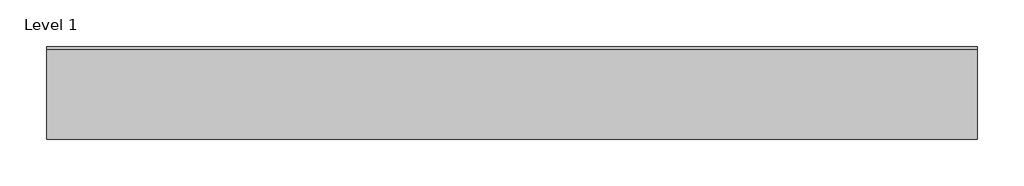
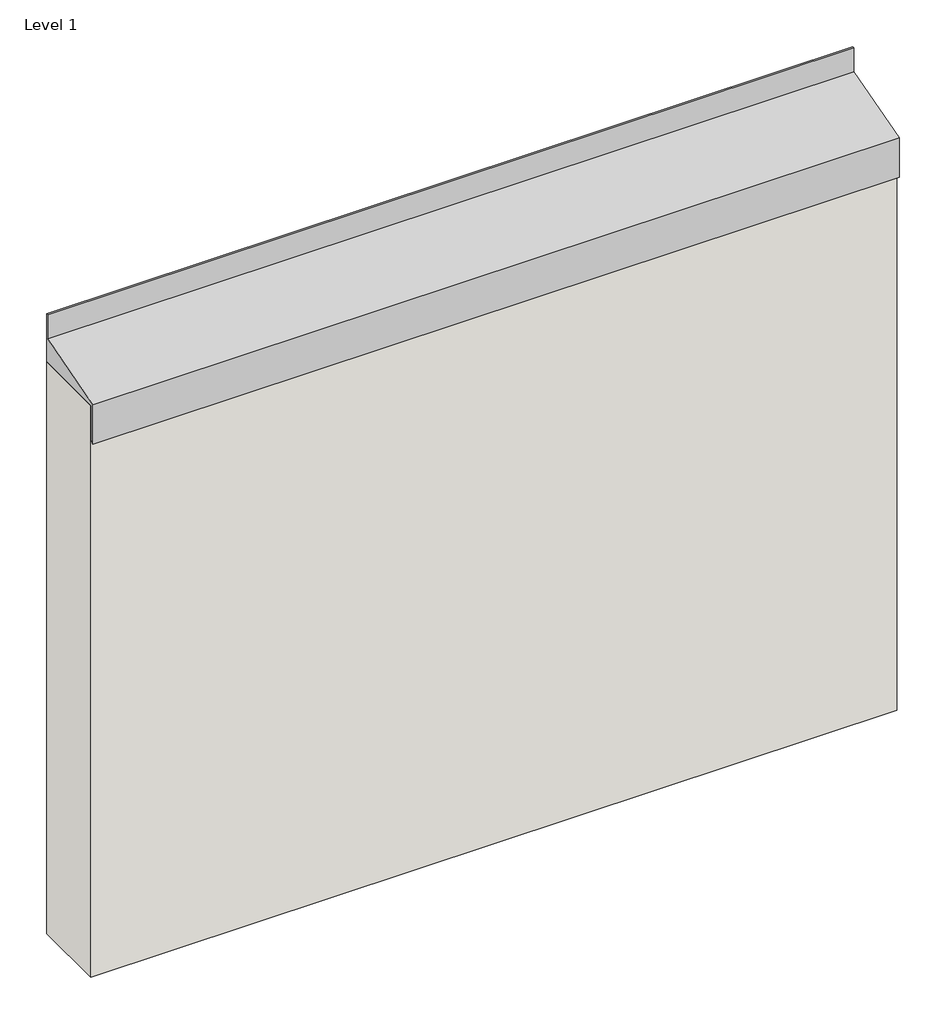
# One storey: 1 proxy, 1 wall.
"""IFC4 building model written with IfcOpenShell, lengths in millimetres."""

from ifc_helpers import new_model, si_unit, frame, origin, place, context, project, spatial, polyline, outline, extrude, faceted_brep, element, save

model = new_model("IFC4")

# Units and contexts
model_context = context("Model", 3, world=origin())
ifc_project = project(units=[si_unit("LENGTHUNIT", "METRE", prefix="MILLI")], contexts=[model_context])

# Site, building, storey
site = spatial("IfcSite", under=ifc_project)
building = spatial("IfcBuilding", under=site)
storey = spatial("IfcBuildingStorey", under=building, Name="Level 1", Elevation=0.0)

# Proxy
placement = place(None, origin())
element("IfcBuildingElementProxy", 1, Name="Fascia-Metal_Era-Perma_Tite_Expansion_Joint_Roof_to_Wall_Version", ObjectType="Fascia-Metal_Era-Perma_Tite_Expansion_Joint_Roof_to_Wall_Version", at=placement, inside=storey, context=model_context, shape_type="SweptSolid", body=[
    extrude(outline(polyline([(-624.1995044, 914.4), (-739.8788986, 914.4), (-739.8788986, 862.3040945), (-745.6432544, 855.9540945), (-745.6432544, 919.4540945), (-627.5192934, 953.3386363), (-627.5192934, 991.4386363), (-624.1995044, 991.4386363), (-624.1995044, 914.4)])), frame((1983.6943366, 0.0, 0.0), z_axis=(1.0, 0.0, 0.0), x_axis=(0.0, 1.0, 0.0)), (0.0, 0.0, 1.0), 1219.2),
])

# Wall
element("IfcWall", 2, ObjectType="Generic - 8\"", at=placement, inside=storey, context=model_context, shape_type="Brep", body=[
    faceted_brep([(1983.6943366, -739.8788986, 0.0), (3202.8943366, -739.8788986, 0.0), (3202.8943366, -739.8788986, 862.3040945), (3202.8943366, -739.8788986, 914.4), (1983.6943366, -739.8788986, 914.4), (1983.6943366, -739.8788986, 862.3040945), (3202.8943366, -624.1898361, 0.0), (1983.6943366, -624.1898361, 0.0), (1983.6943366, -624.1898361, 914.4), (3202.8943366, -624.1898361, 914.4)], [[[0, 1, 2, 3, 4, 5]], [[6, 7, 8, 9]], [[1, 0, 7, 6]], [[6, 9, 3, 2, 1]], [[4, 3, 9, 8]], [[8, 7, 0, 5, 4]]]),
])

save(model, "model.ifc")
